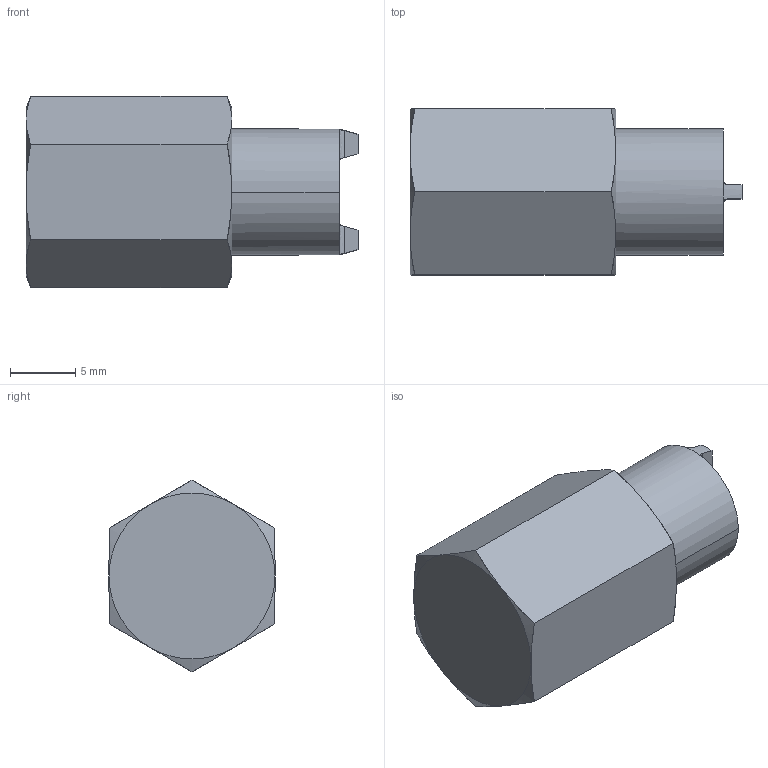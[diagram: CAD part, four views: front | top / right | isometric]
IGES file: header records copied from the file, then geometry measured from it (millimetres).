
Start section:  PTC IGES file: vw-58.igs
Global section: file name: vw-58.igs; native system: Pro/ENGINEER by Parametric Technology Corporation; preprocessor: 2002350; author: chant; organization: Unknown; date: 070702.164207; units: inch
Bounding box: 25.4 x 12.7 x 14.66 mm (x, y, z)
Surface area: 1358.5 mm2 (no closed solid volume)
Topology: 0 solids, 0 shells, 43 faces, 294 edges, 386 vertices
Faces by surface type: revolution 27, bspline 16
